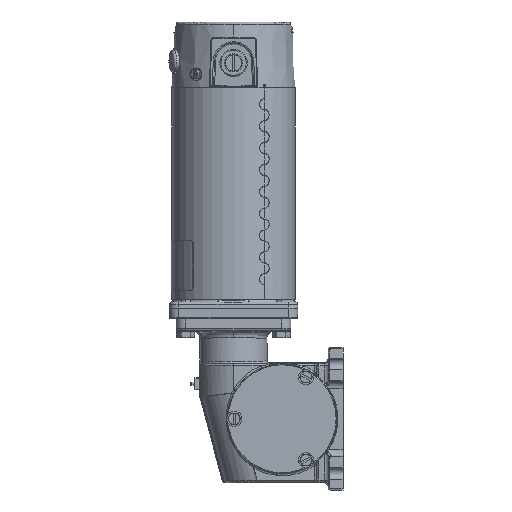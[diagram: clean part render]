
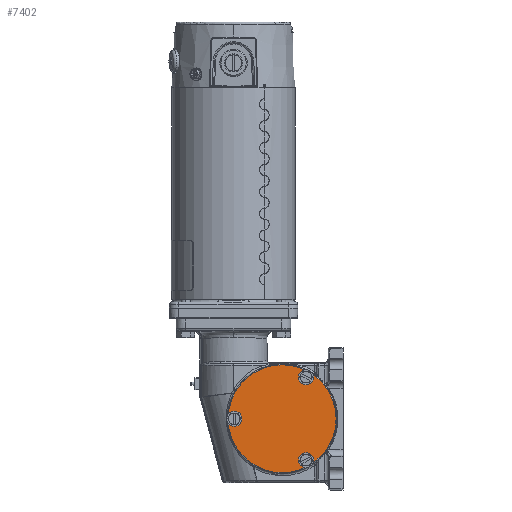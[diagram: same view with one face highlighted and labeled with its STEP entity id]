
A CAD part, left-side view. The second image highlights one B-rep face of the part: STEP entity #7402.
In plain terms, the highlighted planar face has unit normal (-1, 0, 0).
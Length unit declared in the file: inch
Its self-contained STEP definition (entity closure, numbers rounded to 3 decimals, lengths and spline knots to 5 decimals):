
#22 = CARTESIAN_POINT ( 'NONE',  ( -1.5, -0.0205, -2.3979 ) ) ;
#669 = CARTESIAN_POINT ( 'NONE',  ( -1.5, -1.98925, -1.38124 ) ) ;
#2560 = DIRECTION ( 'NONE',  ( 0., 0., 1. ) ) ;
#2890 = FACE_BOUND ( 'NONE', #53661, .T. ) ;
#4650 = CIRCLE ( 'NONE', #119753, 1.48 ) ;
#4809 = DIRECTION ( 'NONE',  ( 1., 0., 0. ) ) ;
#6228 = ORIENTED_EDGE ( 'NONE', *, *, #42167, .T. ) ;
#7402 = ADVANCED_FACE ( 'NONE', ( #45571, #23551, #2890, #118771 ), #114957, .F. ) ;
#7435 = CARTESIAN_POINT ( 'NONE',  ( -1.5, -0.0205, -2.5179 ) ) ;
#9301 = CIRCLE ( 'NONE', #27057, 0.12 ) ;
#10862 = DIRECTION ( 'NONE',  ( 1., 0., 0. ) ) ;
#16249 = EDGE_CURVE ( 'NONE', #97026, #104969, #9301, .T. ) ;
#17250 = ORIENTED_EDGE ( 'NONE', *, *, #95119, .T. ) ;
#21520 = CARTESIAN_POINT ( 'NONE',  ( -1.5, -1.333, -2.3979 ) ) ;
#23551 = FACE_BOUND ( 'NONE', #37671, .T. ) ;
#24739 = CARTESIAN_POINT ( 'NONE',  ( -1.5, -1.98925, -3.41456 ) ) ;
#25323 = ORIENTED_EDGE ( 'NONE', *, *, #16249, .T. ) ;
#27057 = AXIS2_PLACEMENT_3D ( 'NONE', #44746, #111132, #110723 ) ;
#27918 = AXIS2_PLACEMENT_3D ( 'NONE', #96820, #77658, #2560 ) ;
#28521 = DIRECTION ( 'NONE',  ( 0., 0., 1. ) ) ;
#29762 = DIRECTION ( 'NONE',  ( 0., 0., 1. ) ) ;
#30208 = AXIS2_PLACEMENT_3D ( 'NONE', #61058, #4809, #97865 ) ;
#31297 = ORIENTED_EDGE ( 'NONE', *, *, #67784, .T. ) ;
#33816 = DIRECTION ( 'NONE',  ( 0., 0., 1. ) ) ;
#34019 = EDGE_CURVE ( 'NONE', #104448, #115672, #4650, .T. ) ;
#35204 = DIRECTION ( 'NONE',  ( 1., 0., 0. ) ) ;
#37397 = ORIENTED_EDGE ( 'NONE', *, *, #97607, .F. ) ;
#37671 = EDGE_LOOP ( 'NONE', ( #39492, #121016 ) ) ;
#39492 = ORIENTED_EDGE ( 'NONE', *, *, #110006, .T. ) ;
#40388 = VERTEX_POINT ( 'NONE', #60045 ) ;
#42167 = EDGE_CURVE ( 'NONE', #40388, #74532, #79913, .T. ) ;
#42429 = AXIS2_PLACEMENT_3D ( 'NONE', #116212, #70762, #33816 ) ;
#44746 = CARTESIAN_POINT ( 'NONE',  ( -1.5, -1.98925, -1.26124 ) ) ;
#45571 = FACE_BOUND ( 'NONE', #67629, .T. ) ;
#47458 = CARTESIAN_POINT ( 'NONE',  ( -1.5, -1.98925, -3.65456 ) ) ;
#52845 = CIRCLE ( 'NONE', #42429, 0.12 ) ;
#53661 = EDGE_LOOP ( 'NONE', ( #17250, #25323 ) ) ;
#55463 = AXIS2_PLACEMENT_3D ( 'NONE', #87524, #10862, #86336 ) ;
#60045 = CARTESIAN_POINT ( 'NONE',  ( -1.5, -0.0205, -2.2779 ) ) ;
#61058 = CARTESIAN_POINT ( 'NONE',  ( -1.5, -0.0205, -2.3979 ) ) ;
#67506 = DIRECTION ( 'NONE',  ( 1., 0., 0. ) ) ;
#67629 = EDGE_LOOP ( 'NONE', ( #31297, #6228 ) ) ;
#67784 = EDGE_CURVE ( 'NONE', #74532, #40388, #85900, .T. ) ;
#70762 = DIRECTION ( 'NONE',  ( 1., 0., 0. ) ) ;
#73148 = ORIENTED_EDGE ( 'NONE', *, *, #34019, .F. ) ;
#74197 = DIRECTION ( 'NONE',  ( 0., 0., 1. ) ) ;
#74532 = VERTEX_POINT ( 'NONE', #7435 ) ;
#74718 = DIRECTION ( 'NONE',  ( 1., 0., 0. ) ) ;
#77658 = DIRECTION ( 'NONE',  ( 1., 0., 0. ) ) ;
#78546 = CARTESIAN_POINT ( 'NONE',  ( -1.5, -1.333, -0.9179 ) ) ;
#79618 = AXIS2_PLACEMENT_3D ( 'NONE', #21520, #67506, #29762 ) ;
#79913 = CIRCLE ( 'NONE', #30208, 0.12 ) ;
#82351 = CARTESIAN_POINT ( 'NONE',  ( -1.5, -1.98925, -3.53456 ) ) ;
#82471 = VERTEX_POINT ( 'NONE', #24739 ) ;
#84824 = VERTEX_POINT ( 'NONE', #47458 ) ;
#85900 = CIRCLE ( 'NONE', #110858, 0.12 ) ;
#86336 = DIRECTION ( 'NONE',  ( 0., 0., 1. ) ) ;
#87524 = CARTESIAN_POINT ( 'NONE',  ( -1.5, -2.813, -2.3979 ) ) ;
#88034 = CIRCLE ( 'NONE', #114257, 0.12 ) ;
#92076 = CARTESIAN_POINT ( 'NONE',  ( -1.5, -1.333, -3.8779 ) ) ;
#93305 = CARTESIAN_POINT ( 'NONE',  ( -1.5, -1.333, -2.3979 ) ) ;
#93882 = CARTESIAN_POINT ( 'NONE',  ( -1.5, -1.98925, -1.14124 ) ) ;
#95119 = EDGE_CURVE ( 'NONE', #104969, #97026, #52845, .T. ) ;
#96820 = CARTESIAN_POINT ( 'NONE',  ( -1.5, -1.98925, -3.53456 ) ) ;
#97026 = VERTEX_POINT ( 'NONE', #93882 ) ;
#97607 = EDGE_CURVE ( 'NONE', #115672, #104448, #110432, .T. ) ;
#97865 = DIRECTION ( 'NONE',  ( 0., 0., 1. ) ) ;
#102133 = DIRECTION ( 'NONE',  ( 0., 0., 1. ) ) ;
#104448 = VERTEX_POINT ( 'NONE', #78546 ) ;
#104969 = VERTEX_POINT ( 'NONE', #669 ) ;
#108814 = EDGE_CURVE ( 'NONE', #82471, #84824, #120564, .T. ) ;
#110006 = EDGE_CURVE ( 'NONE', #84824, #82471, #88034, .T. ) ;
#110432 = CIRCLE ( 'NONE', #79618, 1.48 ) ;
#110723 = DIRECTION ( 'NONE',  ( 0., 0., 1. ) ) ;
#110858 = AXIS2_PLACEMENT_3D ( 'NONE', #22, #74718, #102133 ) ;
#111132 = DIRECTION ( 'NONE',  ( 1., 0., 0. ) ) ;
#114257 = AXIS2_PLACEMENT_3D ( 'NONE', #82351, #35204, #74197 ) ;
#114957 = PLANE ( 'NONE',  #55463 ) ;
#115672 = VERTEX_POINT ( 'NONE', #92076 ) ;
#116094 = EDGE_LOOP ( 'NONE', ( #73148, #37397 ) ) ;
#116212 = CARTESIAN_POINT ( 'NONE',  ( -1.5, -1.98925, -1.26124 ) ) ;
#118771 = FACE_OUTER_BOUND ( 'NONE', #116094, .T. ) ;
#119753 = AXIS2_PLACEMENT_3D ( 'NONE', #93305, #121133, #28521 ) ;
#120564 = CIRCLE ( 'NONE', #27918, 0.12 ) ;
#121016 = ORIENTED_EDGE ( 'NONE', *, *, #108814, .T. ) ;
#121133 = DIRECTION ( 'NONE',  ( 1., 0., 0. ) ) ;
